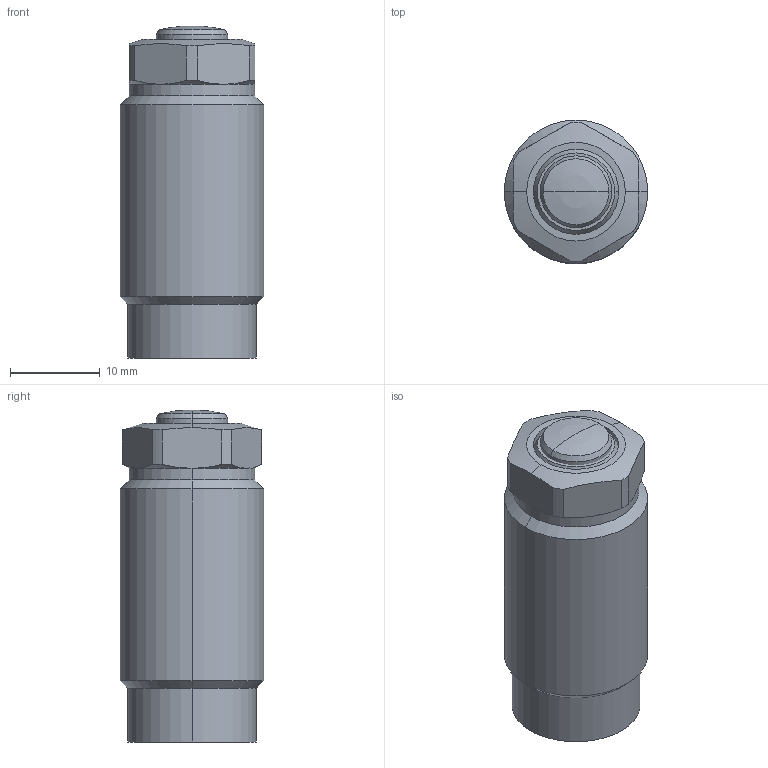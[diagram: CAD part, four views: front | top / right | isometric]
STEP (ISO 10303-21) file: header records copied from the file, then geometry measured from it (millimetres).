
FILE_DESCRIPTION((' '),'2;1');
FILE_NAME( 'TGP16-RM.x_t.stp', '2025-02-10T16:03:50', (' '), ('--- Datakit www.datakit.com---'), ' Datakit CrossCadWare V2024.1 Dec 21 2023', 'Mastercam 2025', ' ');
FILE_SCHEMA(('AUTOMOTIVE_DESIGN { 1 0 10303 214 1 1 1 1 }'));
Length unit declared in the file: millimetre
Products named in the file (1): TGP16-RM
Bounding box: 16 x 16 x 37 mm (x, y, z)
Volume: 7062.6 mm3; surface area: 2636 mm2
Topology: 2 solids, 2 shells, 60 faces, 135 edges, 82 vertices
Faces by surface type: cylinder 22, cone 18, plane 14, torus 4, sphere 2
Entity records: 1756 total; most frequent: CARTESIAN_POINT 380, DIRECTION 308, ORIENTED_EDGE 266, AXIS2_PLACEMENT_3D 134, EDGE_CURVE 133, VERTEX_POINT 82, CIRCLE 73, EDGE_LOOP 65
